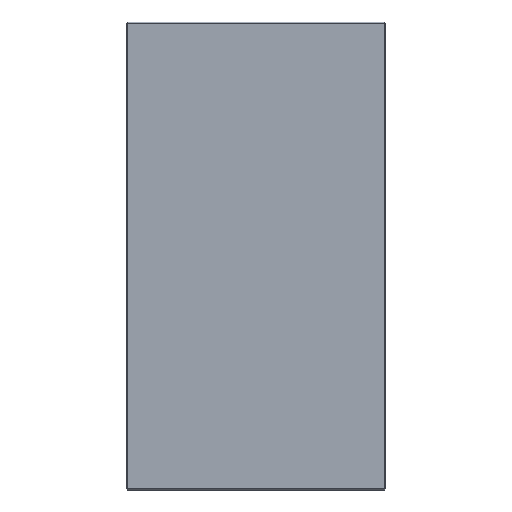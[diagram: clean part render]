
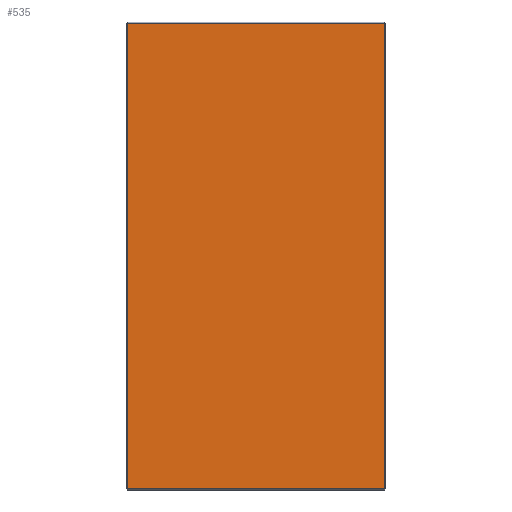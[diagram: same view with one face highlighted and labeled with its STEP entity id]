
A CAD part, front view. The second image highlights one B-rep face of the part: STEP entity #535.
In plain terms, the highlighted planar face has unit normal (0, -1, 0).
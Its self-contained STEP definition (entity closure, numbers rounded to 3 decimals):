
#19 = CARTESIAN_POINT ( 'NONE',  ( 0., 0., -222. ) ) ;
#20 = VECTOR ( 'NONE', #456, 1000. ) ;
#28 = CARTESIAN_POINT ( 'NONE',  ( -122., 0., 0. ) ) ;
#32 = VECTOR ( 'NONE', #127, 1000. ) ;
#43 = DIRECTION ( 'NONE',  ( 0., 0., -1. ) ) ;
#46 = PLANE ( 'NONE',  #627 ) ;
#48 = VECTOR ( 'NONE', #324, 1000. ) ;
#64 = CARTESIAN_POINT ( 'NONE',  ( 0., 0., 0. ) ) ;
#87 = EDGE_CURVE ( 'NONE', #396, #615, #265, .T. ) ;
#127 = DIRECTION ( 'NONE',  ( -1., 0., 0. ) ) ;
#132 = LINE ( 'NONE', #19, #20 ) ;
#139 = LINE ( 'NONE', #370, #48 ) ;
#147 = CARTESIAN_POINT ( 'NONE',  ( 122., 0., -222. ) ) ;
#198 = EDGE_CURVE ( 'NONE', #615, #321, #612, .T. ) ;
#210 = CARTESIAN_POINT ( 'NONE',  ( -122., 0., 222. ) ) ;
#265 = LINE ( 'NONE', #522, #32 ) ;
#269 = ORIENTED_EDGE ( 'NONE', *, *, #310, .T. ) ;
#310 = EDGE_CURVE ( 'NONE', #321, #480, #132, .T. ) ;
#321 = VERTEX_POINT ( 'NONE', #459 ) ;
#324 = DIRECTION ( 'NONE',  ( 0., 0., 1. ) ) ;
#329 = DIRECTION ( 'NONE',  ( 0., 1., 0. ) ) ;
#330 = CARTESIAN_POINT ( 'NONE',  ( 122., 0., 222. ) ) ;
#341 = DIRECTION ( 'NONE',  ( 0., 0., 1. ) ) ;
#353 = EDGE_CURVE ( 'NONE', #480, #396, #139, .T. ) ;
#370 = CARTESIAN_POINT ( 'NONE',  ( 122., 0., 0. ) ) ;
#396 = VERTEX_POINT ( 'NONE', #330 ) ;
#435 = ORIENTED_EDGE ( 'NONE', *, *, #198, .T. ) ;
#446 = ORIENTED_EDGE ( 'NONE', *, *, #353, .T. ) ;
#456 = DIRECTION ( 'NONE',  ( 1., 0., 0. ) ) ;
#459 = CARTESIAN_POINT ( 'NONE',  ( -122., 0., -222. ) ) ;
#460 = ORIENTED_EDGE ( 'NONE', *, *, #87, .T. ) ;
#480 = VERTEX_POINT ( 'NONE', #147 ) ;
#518 = EDGE_LOOP ( 'NONE', ( #446, #460, #435, #269 ) ) ;
#522 = CARTESIAN_POINT ( 'NONE',  ( 0., 0., 222. ) ) ;
#535 = ADVANCED_FACE ( 'NONE', ( #544 ), #46, .F. ) ;
#544 = FACE_OUTER_BOUND ( 'NONE', #518, .T. ) ;
#548 = VECTOR ( 'NONE', #43, 1000. ) ;
#612 = LINE ( 'NONE', #28, #548 ) ;
#615 = VERTEX_POINT ( 'NONE', #210 ) ;
#627 = AXIS2_PLACEMENT_3D ( 'NONE', #64, #329, #341 ) ;
